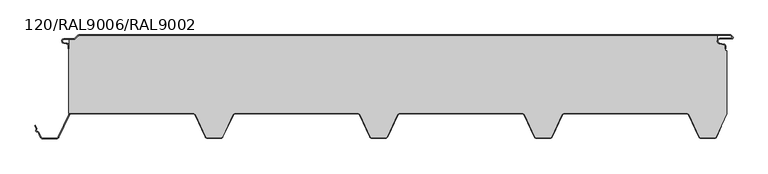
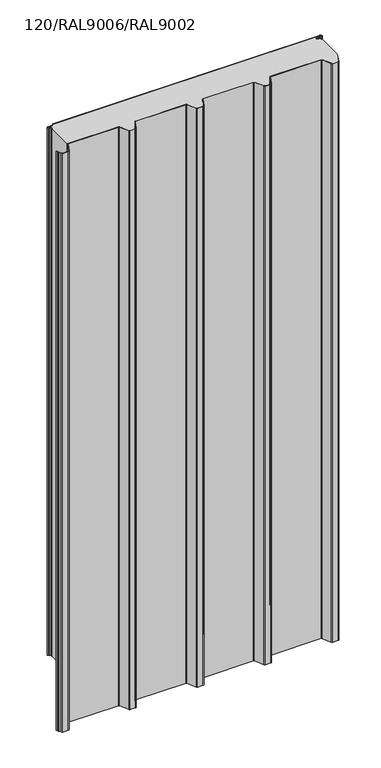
"""IFC4 building model written with IfcOpenShell, lengths in millimetres: plate geometry, TR_C_SNV_Panel_LAYOUT : 120/RAL9006/RAL9002."""

from ifc_helpers import new_model, si_unit, point, frame, frame_2d, origin, origin_with_axes, place, context, project, spatial, polyline, circle_curve, trimmed, segment, composite_curve, outline, extrude, source, transform, mapped, element, save


def plate_120_ral9006_ral9002_c13cb546(model_context):
    return source(origin(), model_context, "Body", "SweptSolid", [
        extrude(outline(composite_curve([segment(polyline([(-471.395, -21.0), (-471.395, -16.8869672)]), True, "CONTINUOUS"), segment(trimmed(circle_curve(frame_2d((-475.145, -16.8869672)), 3.75), [point((-471.395, -16.8869672))], [point((-474.4938193, -13.1939382))], True, "CARTESIAN"), True, "CONTINUOUS"), segment(polyline([(-474.4938193, -13.1939382), (-478.7093566, -12.4506252)]), True, "CONTINUOUS"), segment(trimmed(circle_curve(frame_2d((-478.145, -9.25)), 3.25), [point((-478.7093566, -12.4506252))], [point((-478.145, -6.0))], False, "CARTESIAN"), True, "CONTINUOUS"), segment(polyline([(-478.145, -6.0), (-463.395, -6.0)]), True, "CONTINUOUS"), segment(trimmed(circle_curve(frame_2d((-463.395, -3.5)), 2.5), [point((-463.395, -6.0))], [point((-461.627233, -5.267767))], True, "CARTESIAN"), True, "CONTINUOUS"), segment(polyline([(-461.627233, -5.267767), (-457.2381458, -0.8786797)]), True, "CONTINUOUS"), segment(trimmed(circle_curve(frame_2d((-455.1168254, -3.0)), 3.0), [point((-457.2381458, -0.8786797))], [point((-455.1168254, 0.0))], False, "CARTESIAN"), True, "CONTINUOUS"), segment(polyline([(-455.1168254, 0.0), (534.2236292, 0.0)]), True, "CONTINUOUS"), segment(trimmed(circle_curve(frame_2d((534.2236292, -2.75)), 2.75), [point((534.2236292, 0.0))], [point((536.1681728, -0.8054564))], False, "CARTESIAN"), True, "CONTINUOUS"), segment(polyline([(536.1681728, -0.8054564), (538.0338582, -2.6711418)]), True, "CONTINUOUS"), segment(trimmed(circle_curve(frame_2d((536.655, -4.05)), 1.95), [point((538.0338582, -2.6711418))], [point((536.655, -6.0))], False, "CARTESIAN"), True, "CONTINUOUS"), segment(polyline([(536.655, -6.0), (519.055, -6.0)]), True, "CONTINUOUS"), segment(trimmed(circle_curve(frame_2d((519.055, -9.45)), 3.45), [point((519.055, -6.0))], [point((518.4559138, -12.8475867))], True, "CARTESIAN"), True, "CONTINUOUS"), segment(polyline([(518.4559138, -12.8475867), (524.5061807, -13.914412)]), True, "CONTINUOUS"), segment(trimmed(circle_curve(frame_2d((523.855, -17.6074411)), 3.75), [point((524.5061807, -13.914412))], [point((527.605, -17.6074411))], False, "CARTESIAN"), True, "CONTINUOUS"), segment(polyline([(527.605, -17.6074411), (527.605, -21.0), (526.805, -21.0), (526.805, -17.6074411)]), True, "CONTINUOUS"), segment(trimmed(circle_curve(frame_2d((523.855, -17.6074411)), 2.95), [point((526.805, -17.6074411))], [point((524.3672621, -14.7022582))], True, "CARTESIAN"), True, "CONTINUOUS"), segment(polyline([(524.3672621, -14.7022582), (518.3169952, -13.635433)]), True, "CONTINUOUS"), segment(trimmed(circle_curve(frame_2d((519.055, -9.45)), 4.25), [point((518.3169952, -13.635433))], [point((519.055, -5.2))], False, "CARTESIAN"), True, "CONTINUOUS"), segment(polyline([(519.055, -5.2), (536.655, -5.2)]), True, "CONTINUOUS"), segment(trimmed(circle_curve(frame_2d((536.655, -4.05)), 1.15), [point((536.655, -5.2))], [point((537.4681728, -3.2368272))], True, "CARTESIAN"), True, "CONTINUOUS"), segment(polyline([(537.4681728, -3.2368272), (535.6024874, -1.3711418)]), True, "CONTINUOUS"), segment(trimmed(circle_curve(frame_2d((534.2236292, -2.75)), 1.95), [point((535.6024874, -1.3711418))], [point((534.2236292, -0.8))], True, "CARTESIAN"), True, "CONTINUOUS"), segment(polyline([(534.2236292, -0.8), (-455.1168254, -0.8)]), True, "CONTINUOUS"), segment(trimmed(circle_curve(frame_2d((-455.1168254, -3.0)), 2.2), [point((-455.1168254, -0.8))], [point((-456.6724603, -1.4443651))], True, "CARTESIAN"), True, "CONTINUOUS"), segment(polyline([(-456.6724603, -1.4443651), (-461.0615476, -5.8334524)]), True, "CONTINUOUS"), segment(trimmed(circle_curve(frame_2d((-463.395, -3.5)), 3.3), [point((-461.0615476, -5.8334524))], [point((-463.395, -6.8))], False, "CARTESIAN"), True, "CONTINUOUS"), segment(polyline([(-463.395, -6.8), (-478.145, -6.8)]), True, "CONTINUOUS"), segment(trimmed(circle_curve(frame_2d((-478.145, -9.25)), 2.45), [point((-478.145, -6.8))], [point((-478.570438, -11.662779))], True, "CARTESIAN"), True, "CONTINUOUS"), segment(polyline([(-478.570438, -11.662779), (-474.3549008, -12.4060919)]), True, "CONTINUOUS"), segment(trimmed(circle_curve(frame_2d((-475.145, -16.8869672)), 4.55), [point((-474.3549008, -12.4060919))], [point((-470.595, -16.8869672))], False, "CARTESIAN"), True, "CONTINUOUS"), segment(polyline([(-470.595, -16.8869672), (-470.595, -21.0), (-471.395, -21.0)]), True, "CONTINUOUS")], self_intersect=False)), origin_with_axes(), (0.0, 0.0, 1.0), 2061.7064475),
        extrude(outline(composite_curve([segment(polyline([(-471.0, -21.0), (-470.2, -21.0), (-470.2, -6.8), (-463.395, -6.8)]), True, "CONTINUOUS"), segment(trimmed(circle_curve(frame_2d((-463.395, -3.5)), 3.3), [point((-463.395, -6.8))], [point((-461.0615476, -5.8334524))], True, "CARTESIAN"), True, "CONTINUOUS"), segment(polyline([(-461.0615476, -5.8334524), (-456.6724603, -1.4443651)]), True, "CONTINUOUS"), segment(trimmed(circle_curve(frame_2d((-455.1168254, -3.0)), 2.2), [point((-456.6724603, -1.4443651))], [point((-455.1168254, -0.8))], False, "CARTESIAN"), True, "CONTINUOUS"), segment(polyline([(-455.1168254, -0.8), (514.805, -0.8), (514.805, -9.45)]), True, "CONTINUOUS"), segment(trimmed(circle_curve(frame_2d((519.055, -9.45)), 4.25), [point((514.805, -9.45))], [point((518.3169952, -13.635433))], True, "CARTESIAN"), True, "CONTINUOUS"), segment(polyline([(518.3169952, -13.635433), (524.3672621, -14.7022582)]), True, "CONTINUOUS"), segment(trimmed(circle_curve(frame_2d((523.855, -17.6074411)), 2.95), [point((524.3672621, -14.7022582))], [point((526.805, -17.6074411))], False, "CARTESIAN"), True, "CONTINUOUS"), segment(polyline([(526.805, -17.6074411), (526.805, -23.7), (529.0, -23.7), (529.0, -119.721065), (512.7706404, -154.5255774)]), True, "CONTINUOUS"), segment(trimmed(circle_curve(frame_2d((510.1423406, -153.3)), 2.9), [point((512.7706404, -154.5255774))], [point((510.1423406, -156.2))], False, "CARTESIAN"), True, "CONTINUOUS"), segment(polyline([(510.1423406, -156.2), (489.8576594, -156.2)]), True, "CONTINUOUS"), segment(trimmed(circle_curve(frame_2d((489.8576594, -153.3)), 2.9), [point((489.8576594, -156.2))], [point((487.2293596, -154.5255774))], False, "CARTESIAN"), True, "CONTINUOUS"), segment(polyline([(487.2293596, -154.5255774), (471.7801235, -121.394071)]), True, "CONTINUOUS"), segment(trimmed(circle_curve(frame_2d((468.3361444, -123.0)), 3.8), [point((471.7801235, -121.394071))], [point((468.3361444, -119.2))], True, "CARTESIAN"), True, "CONTINUOUS"), segment(polyline([(468.3361444, -119.2), (281.6638556, -119.2)]), True, "CONTINUOUS"), segment(trimmed(circle_curve(frame_2d((281.6638556, -123.0)), 3.8), [point((281.6638556, -119.2))], [point((278.2198765, -121.394071))], True, "CARTESIAN"), True, "CONTINUOUS"), segment(polyline([(278.2198765, -121.394071), (262.7706404, -154.5255774)]), True, "CONTINUOUS"), segment(trimmed(circle_curve(frame_2d((260.1423406, -153.3)), 2.9), [point((262.7706404, -154.5255774))], [point((260.1423406, -156.2))], False, "CARTESIAN"), True, "CONTINUOUS"), segment(polyline([(260.1423406, -156.2), (239.8576594, -156.2)]), True, "CONTINUOUS"), segment(trimmed(circle_curve(frame_2d((239.8576594, -153.3)), 2.9), [point((239.8576594, -156.2))], [point((237.2293596, -154.5255774))], False, "CARTESIAN"), True, "CONTINUOUS"), segment(polyline([(237.2293596, -154.5255774), (221.7801235, -121.394071)]), True, "CONTINUOUS"), segment(trimmed(circle_curve(frame_2d((218.3361444, -123.0)), 3.8), [point((221.7801235, -121.394071))], [point((218.3361444, -119.2))], True, "CARTESIAN"), True, "CONTINUOUS"), segment(polyline([(218.3361444, -119.2), (31.6638556, -119.2)]), True, "CONTINUOUS"), segment(trimmed(circle_curve(frame_2d((31.6638556, -123.0)), 3.8), [point((31.6638556, -119.2))], [point((28.2198765, -121.394071))], True, "CARTESIAN"), True, "CONTINUOUS"), segment(polyline([(28.2198765, -121.394071), (12.7706404, -154.5255774)]), True, "CONTINUOUS"), segment(trimmed(circle_curve(frame_2d((10.1423406, -153.3)), 2.9), [point((12.7706404, -154.5255774))], [point((10.1423406, -156.2))], False, "CARTESIAN"), True, "CONTINUOUS"), segment(polyline([(10.1423406, -156.2), (-10.1423406, -156.2)]), True, "CONTINUOUS"), segment(trimmed(circle_curve(frame_2d((-10.1423406, -153.3)), 2.9), [point((-10.1423406, -156.2))], [point((-12.7706404, -154.5255774))], False, "CARTESIAN"), True, "CONTINUOUS"), segment(polyline([(-12.7706404, -154.5255774), (-28.2198765, -121.394071)]), True, "CONTINUOUS"), segment(trimmed(circle_curve(frame_2d((-31.6638556, -123.0)), 3.8), [point((-28.2198765, -121.394071))], [point((-31.6638556, -119.2))], True, "CARTESIAN"), True, "CONTINUOUS"), segment(polyline([(-31.6638556, -119.2), (-218.3361444, -119.2)]), True, "CONTINUOUS"), segment(trimmed(circle_curve(frame_2d((-218.3361444, -123.0)), 3.8), [point((-218.3361444, -119.2))], [point((-221.7801235, -121.394071))], True, "CARTESIAN"), True, "CONTINUOUS"), segment(polyline([(-221.7801235, -121.394071), (-237.2293596, -154.5255774)]), True, "CONTINUOUS"), segment(trimmed(circle_curve(frame_2d((-239.8576594, -153.3)), 2.9), [point((-237.2293596, -154.5255774))], [point((-239.8576594, -156.2))], False, "CARTESIAN"), True, "CONTINUOUS"), segment(polyline([(-239.8576594, -156.2), (-260.1423406, -156.2)]), True, "CONTINUOUS"), segment(trimmed(circle_curve(frame_2d((-260.1423406, -153.3)), 2.9), [point((-260.1423406, -156.2))], [point((-262.7706404, -154.5255774))], False, "CARTESIAN"), True, "CONTINUOUS"), segment(polyline([(-262.7706404, -154.5255774), (-278.2198765, -121.394071)]), True, "CONTINUOUS"), segment(trimmed(circle_curve(frame_2d((-281.6638556, -123.0)), 3.8), [point((-278.2198765, -121.394071))], [point((-281.6638556, -119.2))], True, "CARTESIAN"), True, "CONTINUOUS"), segment(polyline([(-281.6638556, -119.2), (-471.0, -119.2), (-471.0, -21.0)]), True, "CONTINUOUS")], self_intersect=False)), origin_with_axes(), (0.0, 0.0, 1.0), 2061.7064475),
        extrude(outline(composite_curve([segment(polyline([(-520.1804593, -142.4208943), (-522.2988356, -137.8779514), (-521.5737873, -137.5398611), (-519.4554111, -142.082804)]), True, "CONTINUOUS"), segment(trimmed(circle_curve(frame_2d((-521.1774006, -142.8857685)), 1.9), [point((-519.4554111, -142.082804))], [point((-519.3947427, -143.5431351))], False, "CARTESIAN"), True, "CONTINUOUS"), segment(polyline([(-519.3947427, -143.5431351), (-519.958046, -145.0707104)]), True, "CONTINUOUS"), segment(trimmed(circle_curve(frame_2d((-519.1136291, -145.3820946)), 0.9), [point((-519.958046, -145.0707104))], [point((-519.4178858, -146.2291058))], True, "CARTESIAN"), True, "CONTINUOUS"), segment(polyline([(-519.4178858, -146.2291058), (-517.8856174, -146.779515)]), True, "CONTINUOUS"), segment(trimmed(circle_curve(frame_2d((-518.5279369, -148.5676497)), 1.9), [point((-517.8856174, -146.779515))], [point((-516.8059473, -147.7646852))], False, "CARTESIAN"), True, "CONTINUOUS"), segment(polyline([(-516.8059473, -147.7646852), (-513.4956887, -154.8636677)]), True, "CONTINUOUS"), segment(trimmed(circle_curve(frame_2d((-510.1423406, -153.3)), 3.7), [point((-513.4956887, -154.8636677))], [point((-510.1423406, -157.0))], True, "CARTESIAN"), True, "CONTINUOUS"), segment(polyline([(-510.1423406, -157.0), (-489.8576594, -157.0)]), True, "CONTINUOUS"), segment(trimmed(circle_curve(frame_2d((-489.8576594, -153.3)), 3.7), [point((-489.8576594, -157.0))], [point((-486.5043113, -154.8636677))], True, "CARTESIAN"), True, "CONTINUOUS"), segment(polyline([(-486.5043113, -154.8636677), (-470.8974236, -121.394071)]), True, "CONTINUOUS"), segment(trimmed(circle_curve(frame_2d((-467.4534445, -123.0)), 3.8), [point((-470.8974236, -121.394071))], [point((-467.4534445, -119.2))], False, "CARTESIAN"), True, "CONTINUOUS"), segment(polyline([(-467.4534445, -119.2), (-281.6638556, -119.2)]), True, "CONTINUOUS"), segment(trimmed(circle_curve(frame_2d((-281.6638556, -123.0)), 3.8), [point((-281.6638556, -119.2))], [point((-278.2198765, -121.394071))], False, "CARTESIAN"), True, "CONTINUOUS"), segment(polyline([(-278.2198765, -121.394071), (-262.7706404, -154.5255774)]), True, "CONTINUOUS"), segment(trimmed(circle_curve(frame_2d((-260.1423406, -153.3)), 2.9), [point((-262.7706404, -154.5255774))], [point((-260.1423406, -156.2))], True, "CARTESIAN"), True, "CONTINUOUS"), segment(polyline([(-260.1423406, -156.2), (-239.8576594, -156.2)]), True, "CONTINUOUS"), segment(trimmed(circle_curve(frame_2d((-239.8576594, -153.3)), 2.9), [point((-239.8576594, -156.2))], [point((-237.2293596, -154.5255774))], True, "CARTESIAN"), True, "CONTINUOUS"), segment(polyline([(-237.2293596, -154.5255774), (-221.7801235, -121.394071)]), True, "CONTINUOUS"), segment(trimmed(circle_curve(frame_2d((-218.3361444, -123.0)), 3.8), [point((-221.7801235, -121.394071))], [point((-218.3361444, -119.2))], False, "CARTESIAN"), True, "CONTINUOUS"), segment(polyline([(-218.3361444, -119.2), (-31.6638556, -119.2)]), True, "CONTINUOUS"), segment(trimmed(circle_curve(frame_2d((-31.6638556, -123.0)), 3.8), [point((-31.6638556, -119.2))], [point((-28.2198765, -121.394071))], False, "CARTESIAN"), True, "CONTINUOUS"), segment(polyline([(-28.2198765, -121.394071), (-12.7706404, -154.5255774)]), True, "CONTINUOUS"), segment(trimmed(circle_curve(frame_2d((-10.1423406, -153.3)), 2.9), [point((-12.7706404, -154.5255774))], [point((-10.1423406, -156.2))], True, "CARTESIAN"), True, "CONTINUOUS"), segment(polyline([(-10.1423406, -156.2), (10.1423406, -156.2)]), True, "CONTINUOUS"), segment(trimmed(circle_curve(frame_2d((10.1423406, -153.3)), 2.9), [point((10.1423406, -156.2))], [point((12.7706404, -154.5255774))], True, "CARTESIAN"), True, "CONTINUOUS"), segment(polyline([(12.7706404, -154.5255774), (28.2198765, -121.394071)]), True, "CONTINUOUS"), segment(trimmed(circle_curve(frame_2d((31.6638556, -123.0)), 3.8), [point((28.2198765, -121.394071))], [point((31.6638556, -119.2))], False, "CARTESIAN"), True, "CONTINUOUS"), segment(polyline([(31.6638556, -119.2), (218.3361444, -119.2)]), True, "CONTINUOUS"), segment(trimmed(circle_curve(frame_2d((218.3361444, -123.0)), 3.8), [point((218.3361444, -119.2))], [point((221.7801235, -121.394071))], False, "CARTESIAN"), True, "CONTINUOUS"), segment(polyline([(221.7801235, -121.394071), (237.2293596, -154.5255774)]), True, "CONTINUOUS"), segment(trimmed(circle_curve(frame_2d((239.8576594, -153.3)), 2.9), [point((237.2293596, -154.5255774))], [point((239.8576594, -156.2))], True, "CARTESIAN"), True, "CONTINUOUS"), segment(polyline([(239.8576594, -156.2), (260.1423406, -156.2)]), True, "CONTINUOUS"), segment(trimmed(circle_curve(frame_2d((260.1423406, -153.3)), 2.9), [point((260.1423406, -156.2))], [point((262.7706404, -154.5255774))], True, "CARTESIAN"), True, "CONTINUOUS"), segment(polyline([(262.7706404, -154.5255774), (278.2198765, -121.394071)]), True, "CONTINUOUS"), segment(trimmed(circle_curve(frame_2d((281.6638556, -123.0)), 3.8), [point((278.2198765, -121.394071))], [point((281.6638556, -119.2))], False, "CARTESIAN"), True, "CONTINUOUS"), segment(polyline([(281.6638556, -119.2), (468.3361444, -119.2)]), True, "CONTINUOUS"), segment(trimmed(circle_curve(frame_2d((468.3361444, -123.0)), 3.8), [point((468.3361444, -119.2))], [point((471.7801235, -121.394071))], False, "CARTESIAN"), True, "CONTINUOUS"), segment(polyline([(471.7801235, -121.394071), (487.2293596, -154.5255774)]), True, "CONTINUOUS"), segment(trimmed(circle_curve(frame_2d((489.8576594, -153.3)), 2.9), [point((487.2293596, -154.5255774))], [point((489.8576594, -156.2))], True, "CARTESIAN"), True, "CONTINUOUS"), segment(polyline([(489.8576594, -156.2), (510.1423406, -156.2)]), True, "CONTINUOUS"), segment(trimmed(circle_curve(frame_2d((510.1423406, -153.3)), 2.9), [point((510.1423406, -156.2))], [point((512.7706404, -154.5255774))], True, "CARTESIAN"), True, "CONTINUOUS"), segment(polyline([(512.7706404, -154.5255774), (520.2409801, -138.5051344), (520.9660283, -138.8432247), (513.4956887, -154.8636677)]), True, "CONTINUOUS"), segment(trimmed(circle_curve(frame_2d((510.1423406, -153.3)), 3.7), [point((513.4956887, -154.8636677))], [point((510.1423406, -157.0))], False, "CARTESIAN"), True, "CONTINUOUS"), segment(polyline([(510.1423406, -157.0), (489.8576594, -157.0)]), True, "CONTINUOUS"), segment(trimmed(circle_curve(frame_2d((489.8576594, -153.3)), 3.7), [point((489.8576594, -157.0))], [point((486.5043113, -154.8636677))], False, "CARTESIAN"), True, "CONTINUOUS"), segment(polyline([(486.5043113, -154.8636677), (471.0550752, -121.7321613)]), True, "CONTINUOUS"), segment(trimmed(circle_curve(frame_2d((468.3361444, -123.0)), 3.0), [point((471.0550752, -121.7321613))], [point((468.3361444, -120.0))], True, "CARTESIAN"), True, "CONTINUOUS"), segment(polyline([(468.3361444, -120.0), (281.6638556, -120.0)]), True, "CONTINUOUS"), segment(trimmed(circle_curve(frame_2d((281.6638556, -123.0)), 3.0), [point((281.6638556, -120.0))], [point((278.9449248, -121.7321613))], True, "CARTESIAN"), True, "CONTINUOUS"), segment(polyline([(278.9449248, -121.7321613), (263.4956887, -154.8636677)]), True, "CONTINUOUS"), segment(trimmed(circle_curve(frame_2d((260.1423406, -153.3)), 3.7), [point((263.4956887, -154.8636677))], [point((260.1423406, -157.0))], False, "CARTESIAN"), True, "CONTINUOUS"), segment(polyline([(260.1423406, -157.0), (239.8576594, -157.0)]), True, "CONTINUOUS"), segment(trimmed(circle_curve(frame_2d((239.8576594, -153.3)), 3.7), [point((239.8576594, -157.0))], [point((236.5043113, -154.8636677))], False, "CARTESIAN"), True, "CONTINUOUS"), segment(polyline([(236.5043113, -154.8636677), (221.0550752, -121.7321613)]), True, "CONTINUOUS"), segment(trimmed(circle_curve(frame_2d((218.3361444, -123.0)), 3.0), [point((221.0550752, -121.7321613))], [point((218.3361444, -120.0))], True, "CARTESIAN"), True, "CONTINUOUS"), segment(polyline([(218.3361444, -120.0), (31.6638556, -120.0)]), True, "CONTINUOUS"), segment(trimmed(circle_curve(frame_2d((31.6638556, -123.0)), 3.0), [point((31.6638556, -120.0))], [point((28.9449248, -121.7321613))], True, "CARTESIAN"), True, "CONTINUOUS"), segment(polyline([(28.9449248, -121.7321613), (13.4956887, -154.8636677)]), True, "CONTINUOUS"), segment(trimmed(circle_curve(frame_2d((10.1423406, -153.3)), 3.7), [point((13.4956887, -154.8636677))], [point((10.1423406, -157.0))], False, "CARTESIAN"), True, "CONTINUOUS"), segment(polyline([(10.1423406, -157.0), (-10.1423406, -157.0)]), True, "CONTINUOUS"), segment(trimmed(circle_curve(frame_2d((-10.1423406, -153.3)), 3.7), [point((-10.1423406, -157.0))], [point((-13.4956887, -154.8636677))], False, "CARTESIAN"), True, "CONTINUOUS"), segment(polyline([(-13.4956887, -154.8636677), (-28.9449248, -121.7321613)]), True, "CONTINUOUS"), segment(trimmed(circle_curve(frame_2d((-31.6638556, -123.0)), 3.0), [point((-28.9449248, -121.7321613))], [point((-31.6638556, -120.0))], True, "CARTESIAN"), True, "CONTINUOUS"), segment(polyline([(-31.6638556, -120.0), (-218.3361444, -120.0)]), True, "CONTINUOUS"), segment(trimmed(circle_curve(frame_2d((-218.3361444, -123.0)), 3.0), [point((-218.3361444, -120.0))], [point((-221.0550752, -121.7321613))], True, "CARTESIAN"), True, "CONTINUOUS"), segment(polyline([(-221.0550752, -121.7321613), (-236.5043113, -154.8636677)]), True, "CONTINUOUS"), segment(trimmed(circle_curve(frame_2d((-239.8576594, -153.3)), 3.7), [point((-236.5043113, -154.8636677))], [point((-239.8576594, -157.0))], False, "CARTESIAN"), True, "CONTINUOUS"), segment(polyline([(-239.8576594, -157.0), (-260.1423406, -157.0)]), True, "CONTINUOUS"), segment(trimmed(circle_curve(frame_2d((-260.1423406, -153.3)), 3.7), [point((-260.1423406, -157.0))], [point((-263.4956887, -154.8636677))], False, "CARTESIAN"), True, "CONTINUOUS"), segment(polyline([(-263.4956887, -154.8636677), (-278.9449248, -121.7321613)]), True, "CONTINUOUS"), segment(trimmed(circle_curve(frame_2d((-281.6638556, -123.0)), 3.0), [point((-278.9449248, -121.7321613))], [point((-281.6638556, -120.0))], True, "CARTESIAN"), True, "CONTINUOUS"), segment(polyline([(-281.6638556, -120.0), (-467.4534445, -120.0)]), True, "CONTINUOUS"), segment(trimmed(circle_curve(frame_2d((-467.4534445, -123.0)), 3.0), [point((-467.4534445, -120.0))], [point((-470.1723753, -121.7321613))], True, "CARTESIAN"), True, "CONTINUOUS"), segment(polyline([(-470.1723753, -121.7321613), (-485.7792631, -155.201758)]), True, "CONTINUOUS"), segment(trimmed(circle_curve(frame_2d((-489.8576594, -153.3)), 4.5), [point((-485.7792631, -155.201758))], [point((-489.8576594, -157.8))], False, "CARTESIAN"), True, "CONTINUOUS"), segment(polyline([(-489.8576594, -157.8), (-510.1423406, -157.8)]), True, "CONTINUOUS"), segment(trimmed(circle_curve(frame_2d((-510.1423406, -153.3)), 4.5), [point((-510.1423406, -157.8))], [point((-514.2207369, -155.201758))], False, "CARTESIAN"), True, "CONTINUOUS"), segment(polyline([(-514.2207369, -155.201758), (-517.5309956, -148.1027755)]), True, "CONTINUOUS"), segment(trimmed(circle_curve(frame_2d((-518.5279369, -148.5676497)), 1.1), [point((-517.5309956, -148.1027755))], [point((-518.1560677, -147.5324138))], True, "CARTESIAN"), True, "CONTINUOUS"), segment(polyline([(-518.1560677, -147.5324138), (-519.6883361, -146.9820046)]), True, "CONTINUOUS"), segment(trimmed(circle_curve(frame_2d((-519.1136291, -145.3820946)), 1.7), [point((-519.6883361, -146.9820046))], [point((-520.7086388, -144.7939244))], False, "CARTESIAN"), True, "CONTINUOUS"), segment(polyline([(-520.7086388, -144.7939244), (-520.1453355, -143.2663492)]), True, "CONTINUOUS"), segment(trimmed(circle_curve(frame_2d((-521.1774006, -142.8857685)), 1.1), [point((-520.1453355, -143.2663492))], [point((-520.1804593, -142.4208943))], True, "CARTESIAN"), True, "CONTINUOUS")], self_intersect=False)), frame((0.0, 0.0, -200.0), z_axis=(0.0, 0.0, 1.0), x_axis=(1.0, 0.0, 0.0)), (0.0, 0.0, 1.0), 2261.7064475),
    ])


if __name__ == "__main__":
    model = new_model("IFC4")
    model_context = context("Model", 3, world=origin())
    ifc_project = project(units=[si_unit("LENGTHUNIT", "METRE", prefix="MILLI")], contexts=[model_context])
    site = spatial("IfcSite", under=ifc_project)
    building = spatial("IfcBuilding", under=site)
    placement = place(None, origin())
    plate_120_ral9006_ral9002_shape = plate_120_ral9006_ral9002_c13cb546(model_context)
    element("IfcPlate", 1, ObjectType="TR_C_SNV_Panel_LAYOUT : 120/RAL9006/RAL9002", at=placement, inside=building, context=model_context, shape_type="MappedRepresentation", body=[
        mapped(plate_120_ral9006_ral9002_shape, transform((0.0, 0.0, 0.0), x_axis=(1.0, 0.0, 0.0), y_axis=(0.0, 1.0, 0.0), z_axis=(0.0, 0.0, 1.0))),
    ])
    save(model, "model.ifc")
